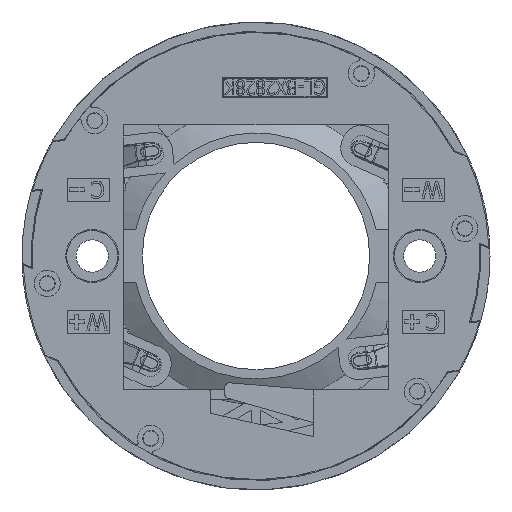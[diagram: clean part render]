
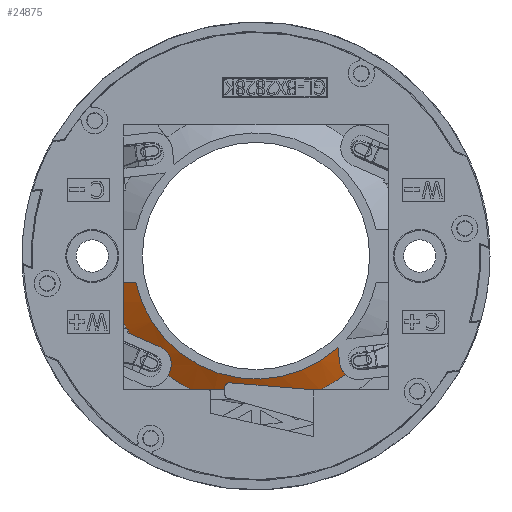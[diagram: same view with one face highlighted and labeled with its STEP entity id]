
A CAD part, front view. The second image highlights one B-rep face of the part: STEP entity #24875.
In plain terms, the highlighted conical face has half-angle 60 degrees and reference radius 14.492 mm.
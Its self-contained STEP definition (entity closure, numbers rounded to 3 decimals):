
#461=CONICAL_SURFACE('',#26403,14.492,1.047);
#480=(
BOUNDED_CURVE()
B_SPLINE_CURVE(2,(#33974,#33975,#33976),.UNSPECIFIED.,.F.,.F.)
B_SPLINE_CURVE_WITH_KNOTS((3,3),(0.,0.157),.UNSPECIFIED.)
CURVE()
GEOMETRIC_REPRESENTATION_ITEM()
RATIONAL_B_SPLINE_CURVE((1.,1.002,1.002))
REPRESENTATION_ITEM('')
);
#488=(
BOUNDED_CURVE()
B_SPLINE_CURVE(2,(#34029,#34030,#34031),.UNSPECIFIED.,.F.,.F.)
B_SPLINE_CURVE_WITH_KNOTS((3,3),(1.015,1.435),
 .UNSPECIFIED.)
CURVE()
GEOMETRIC_REPRESENTATION_ITEM()
RATIONAL_B_SPLINE_CURVE((1.049,1.035,1.))
REPRESENTATION_ITEM('')
);
#489=(
BOUNDED_CURVE()
B_SPLINE_CURVE(2,(#34035,#34036,#34037),.UNSPECIFIED.,.F.,.F.)
B_SPLINE_CURVE_WITH_KNOTS((3,3),(0.,0.013),.UNSPECIFIED.)
CURVE()
GEOMETRIC_REPRESENTATION_ITEM()
RATIONAL_B_SPLINE_CURVE((1.,1.,1.001))
REPRESENTATION_ITEM('')
);
#490=(
BOUNDED_CURVE()
B_SPLINE_CURVE(2,(#34039,#34040,#34041),.UNSPECIFIED.,.F.,.F.)
B_SPLINE_CURVE_WITH_KNOTS((3,3),(0.376,0.386),
 .UNSPECIFIED.)
CURVE()
GEOMETRIC_REPRESENTATION_ITEM()
RATIONAL_B_SPLINE_CURVE((1.,1.,1.))
REPRESENTATION_ITEM('')
);
#491=(
BOUNDED_CURVE()
B_SPLINE_CURVE(2,(#34045,#34046,#34047),.UNSPECIFIED.,.F.,.F.)
B_SPLINE_CURVE_WITH_KNOTS((3,3),(0.,0.344),.UNSPECIFIED.)
CURVE()
GEOMETRIC_REPRESENTATION_ITEM()
RATIONAL_B_SPLINE_CURVE((1.,1.015,1.015))
REPRESENTATION_ITEM('')
);
#492=(
BOUNDED_CURVE()
B_SPLINE_CURVE(2,(#34064,#34065,#34066),.UNSPECIFIED.,.F.,.F.)
B_SPLINE_CURVE_WITH_KNOTS((3,3),(0.27,0.317),
 .UNSPECIFIED.)
CURVE()
GEOMETRIC_REPRESENTATION_ITEM()
RATIONAL_B_SPLINE_CURVE((1.001,1.001,1.))
REPRESENTATION_ITEM('')
);
#493=(
BOUNDED_CURVE()
B_SPLINE_CURVE(2,(#34070,#34071,#34072),.UNSPECIFIED.,.F.,.F.)
B_SPLINE_CURVE_WITH_KNOTS((3,3),(0.001,1.372),
 .UNSPECIFIED.)
CURVE()
GEOMETRIC_REPRESENTATION_ITEM()
RATIONAL_B_SPLINE_CURVE((1.,1.107,1.))
REPRESENTATION_ITEM('')
);
#494=(
BOUNDED_CURVE()
B_SPLINE_CURVE(2,(#34085,#34086,#34087),.UNSPECIFIED.,.F.,.F.)
B_SPLINE_CURVE_WITH_KNOTS((3,3),(0.163,0.352),
 .UNSPECIFIED.)
CURVE()
GEOMETRIC_REPRESENTATION_ITEM()
RATIONAL_B_SPLINE_CURVE((1.003,1.003,1.))
REPRESENTATION_ITEM('')
);
#675=B_SPLINE_CURVE_WITH_KNOTS('',3,(#34049,#34050,#34051,#34052,#34053,
#34054,#34055,#34056,#34057,#34058,#34059,#34060,#34061,#34062),
 .UNSPECIFIED.,.F.,.F.,(4,2,2,2,2,2,4),(0.934,0.934,
1.002,1.071,1.139,1.22,1.25),
 .UNSPECIFIED.);
#676=B_SPLINE_CURVE_WITH_KNOTS('',3,(#34076,#34077,#34078,#34079,#34080,
#34081,#34082,#34083),.UNSPECIFIED.,.F.,.F.,(4,2,2,4),(0.668,
0.705,0.785,0.819),.UNSPECIFIED.);
#2325=FACE_OUTER_BOUND('',#3725,.T.);
#3725=EDGE_LOOP('',(#17403,#17404,#17405,#17406,#17407,#17408,#17409,#17410,
#17411,#17412,#17413,#17414,#17415,#17416,#17417));
#5241=CIRCLE('',#26404,15.835);
#5242=CIRCLE('',#26405,15.835);
#5243=CIRCLE('',#26406,15.835);
#5244=CIRCLE('',#26407,15.835);
#5245=CIRCLE('',#26408,13.15);
#10881=VERTEX_POINT('',#33972);
#10882=VERTEX_POINT('',#33973);
#10898=VERTEX_POINT('',#34028);
#10899=VERTEX_POINT('',#34032);
#10900=VERTEX_POINT('',#34034);
#10901=VERTEX_POINT('',#34038);
#10902=VERTEX_POINT('',#34042);
#10903=VERTEX_POINT('',#34044);
#10904=VERTEX_POINT('',#34048);
#10905=VERTEX_POINT('',#34063);
#10906=VERTEX_POINT('',#34067);
#10907=VERTEX_POINT('',#34069);
#10908=VERTEX_POINT('',#34073);
#10909=VERTEX_POINT('',#34075);
#10910=VERTEX_POINT('',#34084);
#13463=EDGE_CURVE('',#10881,#10882,#480,.T.);
#13481=EDGE_CURVE('',#10882,#10898,#488,.T.);
#13482=EDGE_CURVE('',#10899,#10898,#5241,.T.);
#13483=EDGE_CURVE('',#10899,#10900,#489,.T.);
#13484=EDGE_CURVE('',#10900,#10901,#490,.T.);
#13485=EDGE_CURVE('',#10902,#10901,#5242,.T.);
#13486=EDGE_CURVE('',#10902,#10903,#491,.T.);
#13487=EDGE_CURVE('',#10904,#10903,#675,.F.);
#13488=EDGE_CURVE('',#10904,#10905,#492,.T.);
#13489=EDGE_CURVE('',#10906,#10905,#5243,.T.);
#13490=EDGE_CURVE('',#10906,#10907,#493,.T.);
#13491=EDGE_CURVE('',#10908,#10907,#5244,.T.);
#13492=EDGE_CURVE('',#10909,#10908,#676,.F.);
#13493=EDGE_CURVE('',#10909,#10910,#494,.T.);
#13494=EDGE_CURVE('',#10881,#10910,#5245,.T.);
#17403=ORIENTED_EDGE('',*,*,#13463,.T.);
#17404=ORIENTED_EDGE('',*,*,#13481,.T.);
#17405=ORIENTED_EDGE('',*,*,#13482,.F.);
#17406=ORIENTED_EDGE('',*,*,#13483,.T.);
#17407=ORIENTED_EDGE('',*,*,#13484,.T.);
#17408=ORIENTED_EDGE('',*,*,#13485,.F.);
#17409=ORIENTED_EDGE('',*,*,#13486,.T.);
#17410=ORIENTED_EDGE('',*,*,#13487,.F.);
#17411=ORIENTED_EDGE('',*,*,#13488,.T.);
#17412=ORIENTED_EDGE('',*,*,#13489,.F.);
#17413=ORIENTED_EDGE('',*,*,#13490,.T.);
#17414=ORIENTED_EDGE('',*,*,#13491,.F.);
#17415=ORIENTED_EDGE('',*,*,#13492,.F.);
#17416=ORIENTED_EDGE('',*,*,#13493,.T.);
#17417=ORIENTED_EDGE('',*,*,#13494,.F.);
#24875=ADVANCED_FACE('',(#2325),#461,.T.);
#26403=AXIS2_PLACEMENT_3D('',#34027,#28268,#28269);
#26404=AXIS2_PLACEMENT_3D('',#34033,#28270,#28271);
#26405=AXIS2_PLACEMENT_3D('',#34043,#28272,#28273);
#26406=AXIS2_PLACEMENT_3D('',#34068,#28274,#28275);
#26407=AXIS2_PLACEMENT_3D('',#34074,#28276,#28277);
#26408=AXIS2_PLACEMENT_3D('',#34088,#28278,#28279);
#28268=DIRECTION('center_axis',(0.,1.,0.));
#28269=DIRECTION('ref_axis',(1.,0.,0.));
#28270=DIRECTION('center_axis',(0.,1.,0.));
#28271=DIRECTION('ref_axis',(1.,0.,0.));
#28272=DIRECTION('center_axis',(0.,1.,0.));
#28273=DIRECTION('ref_axis',(1.,0.,0.));
#28274=DIRECTION('center_axis',(0.,1.,0.));
#28275=DIRECTION('ref_axis',(1.,0.,0.));
#28276=DIRECTION('center_axis',(0.,1.,0.));
#28277=DIRECTION('ref_axis',(1.,0.,0.));
#28278=DIRECTION('center_axis',(0.,-1.,0.));
#28279=DIRECTION('ref_axis',(1.,0.,0.));
#33972=CARTESIAN_POINT('',(-12.848,0.95,-2.8));
#33973=CARTESIAN_POINT('',(-14.15,1.686,-2.8));
#33974=CARTESIAN_POINT('Ctrl Pts',(-12.848,0.95,-2.8));
#33975=CARTESIAN_POINT('Ctrl Pts',(-13.469,1.3,-2.8));
#33976=CARTESIAN_POINT('Ctrl Pts',(-14.15,1.686,-2.8));
#34027=CARTESIAN_POINT('Origin',(0.,1.725,0.));
#34028=CARTESIAN_POINT('',(-14.15,2.5,-7.107));
#34029=CARTESIAN_POINT('Ctrl Pts',(-14.15,1.686,-2.8));
#34030=CARTESIAN_POINT('Ctrl Pts',(-14.15,1.916,-4.853));
#34031=CARTESIAN_POINT('Ctrl Pts',(-14.15,2.5,-7.107));
#34032=CARTESIAN_POINT('',(-13.765,2.5,-7.827));
#34033=CARTESIAN_POINT('Origin',(0.,2.5,0.));
#34034=CARTESIAN_POINT('',(-13.638,2.452,-7.882));
#34035=CARTESIAN_POINT('Ctrl Pts',(-13.765,2.5,-7.827));
#34036=CARTESIAN_POINT('Ctrl Pts',(-13.702,2.476,-7.854));
#34037=CARTESIAN_POINT('Ctrl Pts',(-13.638,2.452,-7.882));
#34038=CARTESIAN_POINT('',(-13.679,2.5,-7.976));
#34039=CARTESIAN_POINT('Ctrl Pts',(-13.638,2.452,-7.882));
#34040=CARTESIAN_POINT('Ctrl Pts',(-13.659,2.476,-7.929));
#34041=CARTESIAN_POINT('Ctrl Pts',(-13.679,2.5,-7.976));
#34042=CARTESIAN_POINT('',(-13.483,2.5,-8.303));
#34043=CARTESIAN_POINT('Origin',(0.,2.5,0.));
#34044=CARTESIAN_POINT('',(-10.254,1.509,-9.705));
#34045=CARTESIAN_POINT('Ctrl Pts',(-13.483,2.5,-8.303));
#34046=CARTESIAN_POINT('Ctrl Pts',(-11.776,1.885,-9.044));
#34047=CARTESIAN_POINT('Ctrl Pts',(-10.254,1.509,-9.705));
#34048=CARTESIAN_POINT('',(-9.215,2.248,-12.336));
#34049=CARTESIAN_POINT('Ctrl Pts',(-10.254,1.509,-9.705));
#34050=CARTESIAN_POINT('Ctrl Pts',(-10.253,1.509,-9.705));
#34051=CARTESIAN_POINT('Ctrl Pts',(-10.252,1.509,-9.705));
#34052=CARTESIAN_POINT('Ctrl Pts',(-10.035,1.455,-9.8));
#34053=CARTESIAN_POINT('Ctrl Pts',(-9.831,1.427,-9.937));
#34054=CARTESIAN_POINT('Ctrl Pts',(-9.502,1.427,-10.253));
#34055=CARTESIAN_POINT('Ctrl Pts',(-9.356,1.455,-10.45));
#34056=CARTESIAN_POINT('Ctrl Pts',(-9.149,1.562,-10.875));
#34057=CARTESIAN_POINT('Ctrl Pts',(-9.087,1.641,-11.103));
#34058=CARTESIAN_POINT('Ctrl Pts',(-9.034,1.828,-11.561));
#34059=CARTESIAN_POINT('Ctrl Pts',(-9.054,1.956,-11.824));
#34060=CARTESIAN_POINT('Ctrl Pts',(-9.146,2.143,-12.161));
#34061=CARTESIAN_POINT('Ctrl Pts',(-9.178,2.195,-12.25));
#34062=CARTESIAN_POINT('Ctrl Pts',(-9.215,2.248,-12.336));
#34063=CARTESIAN_POINT('',(-9.394,2.5,-12.747));
#34064=CARTESIAN_POINT('Ctrl Pts',(-9.215,2.248,-12.336));
#34065=CARTESIAN_POINT('Ctrl Pts',(-9.303,2.372,-12.539));
#34066=CARTESIAN_POINT('Ctrl Pts',(-9.394,2.5,-12.747));
#34067=CARTESIAN_POINT('',(-6.801,2.5,-14.3));
#34068=CARTESIAN_POINT('Origin',(0.,2.5,0.));
#34069=CARTESIAN_POINT('',(6.801,2.5,-14.3));
#34070=CARTESIAN_POINT('Ctrl Pts',(-6.801,2.5,-14.3));
#34071=CARTESIAN_POINT('Ctrl Pts',(0.,0.814,
-14.3));
#34072=CARTESIAN_POINT('Ctrl Pts',(6.801,2.5,-14.3));
#34073=CARTESIAN_POINT('',(9.538,2.5,-12.64));
#34074=CARTESIAN_POINT('Origin',(0.,2.5,0.));
#34075=CARTESIAN_POINT('',(8.934,1.73,-11.423));
#34076=CARTESIAN_POINT('Ctrl Pts',(9.538,2.5,-12.64));
#34077=CARTESIAN_POINT('Ctrl Pts',(9.458,2.437,-12.563));
#34078=CARTESIAN_POINT('Ctrl Pts',(9.386,2.374,-12.481));
#34079=CARTESIAN_POINT('Ctrl Pts',(9.183,2.179,-12.21));
#34080=CARTESIAN_POINT('Ctrl Pts',(9.066,2.033,-11.983));
#34081=CARTESIAN_POINT('Ctrl Pts',(8.968,1.839,-11.636));
#34082=CARTESIAN_POINT('Ctrl Pts',(8.947,1.783,-11.53));
#34083=CARTESIAN_POINT('Ctrl Pts',(8.934,1.73,-11.423));
#34084=CARTESIAN_POINT('',(8.75,0.95,-9.816));
#34085=CARTESIAN_POINT('Ctrl Pts',(8.934,1.73,-11.423));
#34086=CARTESIAN_POINT('Ctrl Pts',(8.838,1.313,-10.58));
#34087=CARTESIAN_POINT('Ctrl Pts',(8.75,0.95,-9.816));
#34088=CARTESIAN_POINT('Origin',(0.,0.95,0.));
